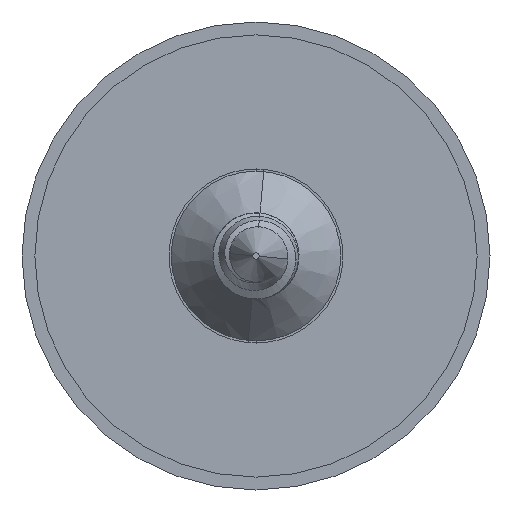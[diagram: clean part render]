
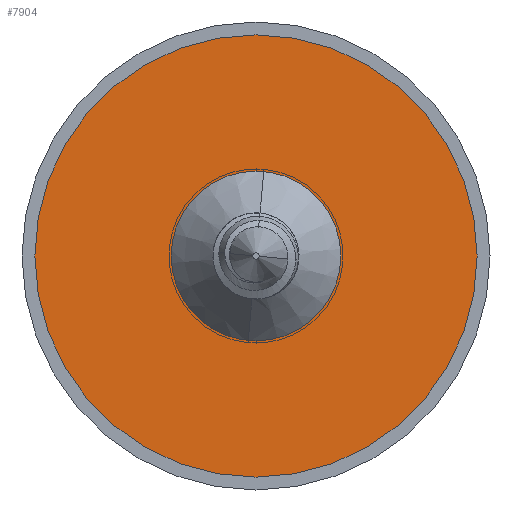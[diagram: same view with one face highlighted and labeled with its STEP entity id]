
A CAD part, front view. The second image highlights one B-rep face of the part: STEP entity #7904.
In plain terms, the highlighted planar face has unit normal (0, -1, 0).
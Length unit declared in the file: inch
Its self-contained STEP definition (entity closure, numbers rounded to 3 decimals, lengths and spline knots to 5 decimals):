
#316 = DIRECTION ( 'NONE',  ( 0., 0., 1. ) ) ;
#795 = AXIS2_PLACEMENT_3D ( 'NONE', #6854, #7546, #316 ) ;
#1309 = ORIENTED_EDGE ( 'NONE', *, *, #3066, .T. ) ;
#1448 = AXIS2_PLACEMENT_3D ( 'NONE', #7035, #2026, #7094 ) ;
#2026 = DIRECTION ( 'NONE',  ( 0., 1., 0. ) ) ;
#2151 = CARTESIAN_POINT ( 'NONE',  ( 0., -0.035, 0. ) ) ;
#2163 = CIRCLE ( 'NONE', #3363, 0.35433 ) ;
#2869 = EDGE_LOOP ( 'NONE', ( #1309, #3821 ) ) ;
#3066 = EDGE_CURVE ( 'NONE', #5374, #8296, #4021, .T. ) ;
#3300 = EDGE_CURVE ( 'NONE', #6443, #6216, #8849, .T. ) ;
#3363 = AXIS2_PLACEMENT_3D ( 'NONE', #5251, #3716, #5159 ) ;
#3474 = AXIS2_PLACEMENT_3D ( 'NONE', #2151, #4591, #6754 ) ;
#3634 = CARTESIAN_POINT ( 'NONE',  ( 0., -0.035, -0.35433 ) ) ;
#3716 = DIRECTION ( 'NONE',  ( 0., 1., 0. ) ) ;
#3821 = ORIENTED_EDGE ( 'NONE', *, *, #4849, .T. ) ;
#3875 = ORIENTED_EDGE ( 'NONE', *, *, #3300, .F. ) ;
#4021 = CIRCLE ( 'NONE', #795, 0.13597 ) ;
#4591 = DIRECTION ( 'NONE',  ( 0., 1., 0. ) ) ;
#4808 = CARTESIAN_POINT ( 'NONE',  ( 0., -0.035, -0.13597 ) ) ;
#4849 = EDGE_CURVE ( 'NONE', #8296, #5374, #8722, .T. ) ;
#5159 = DIRECTION ( 'NONE',  ( 0., 0., 1. ) ) ;
#5251 = CARTESIAN_POINT ( 'NONE',  ( 0., -0.035, 0. ) ) ;
#5374 = VERTEX_POINT ( 'NONE', #7384 ) ;
#5818 = EDGE_CURVE ( 'NONE', #6216, #6443, #2163, .T. ) ;
#6216 = VERTEX_POINT ( 'NONE', #3634 ) ;
#6276 = CARTESIAN_POINT ( 'NONE',  ( 0., -0.035, 0. ) ) ;
#6381 = PLANE ( 'NONE',  #1448 ) ;
#6443 = VERTEX_POINT ( 'NONE', #7842 ) ;
#6754 = DIRECTION ( 'NONE',  ( 0., 0., 1. ) ) ;
#6854 = CARTESIAN_POINT ( 'NONE',  ( 0., -0.035, 0. ) ) ;
#6992 = DIRECTION ( 'NONE',  ( 0., 1., 0. ) ) ;
#7035 = CARTESIAN_POINT ( 'NONE',  ( 0., -0.035, 0. ) ) ;
#7037 = FACE_BOUND ( 'NONE', #2869, .T. ) ;
#7076 = DIRECTION ( 'NONE',  ( 0., 0., 1. ) ) ;
#7094 = DIRECTION ( 'NONE',  ( 0., 0., 1. ) ) ;
#7111 = ORIENTED_EDGE ( 'NONE', *, *, #5818, .F. ) ;
#7384 = CARTESIAN_POINT ( 'NONE',  ( 0., -0.035, 0.13597 ) ) ;
#7546 = DIRECTION ( 'NONE',  ( 0., 1., 0. ) ) ;
#7842 = CARTESIAN_POINT ( 'NONE',  ( 0., -0.035, 0.35433 ) ) ;
#7904 = ADVANCED_FACE ( 'NONE', ( #7037, #9274 ), #6381, .F. ) ;
#8254 = AXIS2_PLACEMENT_3D ( 'NONE', #6276, #6992, #7076 ) ;
#8296 = VERTEX_POINT ( 'NONE', #4808 ) ;
#8722 = CIRCLE ( 'NONE', #8254, 0.13597 ) ;
#8849 = CIRCLE ( 'NONE', #3474, 0.35433 ) ;
#8919 = EDGE_LOOP ( 'NONE', ( #7111, #3875 ) ) ;
#9274 = FACE_OUTER_BOUND ( 'NONE', #8919, .T. ) ;
